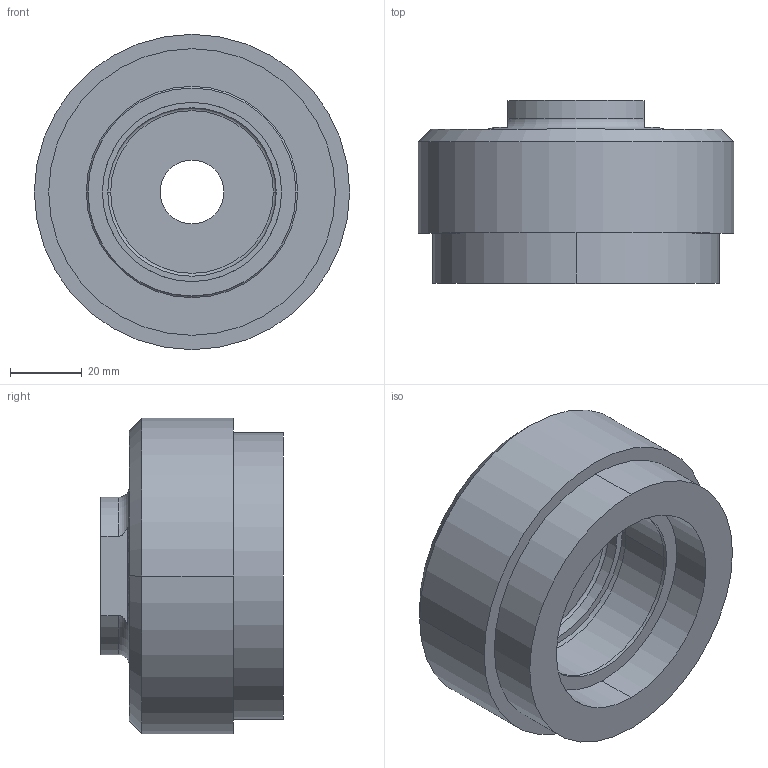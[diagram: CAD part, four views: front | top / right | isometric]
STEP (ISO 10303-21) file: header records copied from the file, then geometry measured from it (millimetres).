
FILE_DESCRIPTION (( 'STEP AP203' ), '1' );
FILE_NAME ('Assy_CI80_Neo.STEP', '2009-08-26T12:03:26', ( 'Nils-Olov Jansson' ), ( 'CAD-Design AB' ), 'SwSTEP 2.0', 'SolidWorks 2009', '' );
FILE_SCHEMA (( 'CONFIG_CONTROL_DESIGN' ));
Length unit declared in the file: millimetre
Products named in the file (3): Body__CI_115_CI80; Foam_CI_115_Neo_CI80; Assy_CI80_Neo
Assembly tree (2 placements, depth 2):
  Assy_CI80_Neo
    Foam_CI_115_Neo_CI80
    Body__CI_115_CI80
Bounding box: 88 x 51 x 88 mm (x, y, z)
Volume: 179686.8 mm3; surface area: 57016.1 mm2
Topology: 2 solids, 2 shells, 46 faces, 98 edges, 62 vertices
Faces by surface type: cylinder 20, plane 14, torus 8, cone 4
Entity records: 1619 total; most frequent: DIRECTION 260, CARTESIAN_POINT 259, ORIENTED_EDGE 196, AXIS2_PLACEMENT_3D 115, EDGE_CURVE 98, CIRCLE 64, VERTEX_POINT 62, EDGE_LOOP 56
